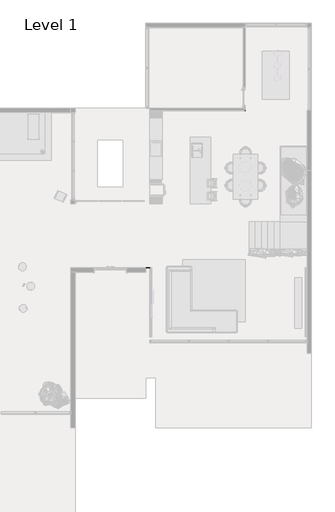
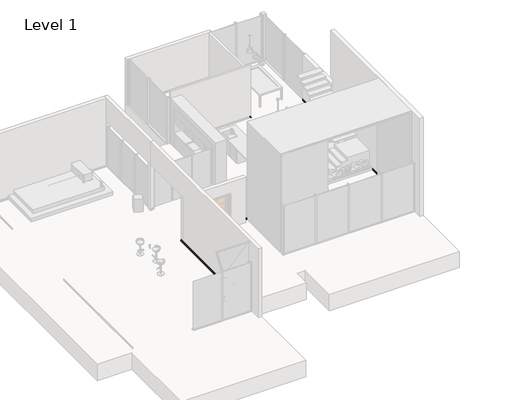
# One storey, part 5 of 6: 1 proxy.
"""IFC4 building model written with IfcOpenShell, lengths in millimetres."""

from ifc_helpers import new_model, si_unit, frame, origin, place, context, project, spatial, polyline, circle_curve, ellipse_curve, element, save
from ifc_brep_helpers import plane_surface, cylinder_surface, revolved_surface, advanced_brep

model = new_model("IFC4")

# Units and contexts
model_context = context("Model", 3, world=origin())
ifc_project = project(units=[si_unit("LENGTHUNIT", "METRE", prefix="MILLI")], contexts=[model_context])

# Site, building, storey
site = spatial("IfcSite", under=ifc_project)
building = spatial("IfcBuilding", under=site)
storey = spatial("IfcBuildingStorey", under=building, Name="Level 1", Elevation=1000.0)

# Proxy
placement = place(None, origin())
element("IfcBuildingElementProxy", 1, Name="Brick Soldier Course", ObjectType="Brick Soldier Course", at=placement, inside=storey, context=model_context, shape_type="AdvancedBrep", body=[
    advanced_brep(
    [(21543.1337784, 17066.9206658, 1100.0), (21544.1305058, 17066.9206658, 1100.0), (21548.1337784, 17066.9206658, 1095.9967275), (21548.1337784, 17066.9206658, 1091.4365579), (21546.6972204, 17066.9206658, 1090.0), (21545.6220518, 17066.9206658, 1090.0), (21545.6220518, 17066.9206658, 1050.0), (21549.1220518, 17066.9206658, 1050.0), (21550.6220518, 17066.9206658, 1048.5), (21550.6220518, 17066.9206658, 1026.451226), (21549.1708258, 17066.9206658, 1025.0), (21548.1337784, 17066.9206658, 1025.0), (21548.1337784, 17066.9206658, 1017.9313406), (21549.4012827, 17066.9206658, 1017.9313406), (21550.7660304, 17066.9206658, 1016.7363778), (21556.2616065, 17066.9206658, 1000.0), (21543.1337784, 17066.9206658, 1000.0), (21543.1337784, 14148.7206658, 1100.0), (21543.1337784, 14148.7206658, 1000.0), (21556.2616065, 14148.7206658, 1000.0), (21550.7660304, 14148.7206658, 1016.7363778), (21549.4012827, 14148.7206658, 1017.9313406), (21548.1337784, 14148.7206658, 1017.9313406), (21548.1337784, 14148.7206658, 1025.0), (21549.1708258, 14148.7206658, 1025.0), (21550.6220518, 14148.7206658, 1026.451226), (21550.6220518, 14148.7206658, 1048.5), (21549.1220518, 14148.7206658, 1050.0), (21545.6220518, 14148.7206658, 1050.0), (21545.6220518, 14148.7206658, 1090.0), (21546.6972204, 14148.7206658, 1090.0), (21548.1337784, 14148.7206658, 1091.4365579), (21548.1337784, 14148.7206658, 1095.9967275), (21544.1305058, 14148.7206658, 1100.0)],
    [
        (0, 1),
        (1, 2, circle_curve(frame((21544.1305058, 17066.9206658, 1095.9967275), z_axis=(0.0, 1.0, 0.0), x_axis=(1.0, 0.0, 0.0)), 4.0032725)),
        (2, 3),
        (3, 4, circle_curve(frame((21546.6972204, 17066.9206658, 1091.4365579), z_axis=(0.0, 1.0, 0.0), x_axis=(1.0, 0.0, 0.0)), 1.4365579)),
        (4, 5),
        (5, 6),
        (6, 7),
        (7, 8, circle_curve(frame((21549.1220518, 17066.9206658, 1048.5), z_axis=(0.0, 1.0, 0.0), x_axis=(1.0, 0.0, 0.0)), 1.5)),
        (8, 9),
        (9, 10, circle_curve(frame((21549.1708258, 17066.9206658, 1026.451226), z_axis=(0.0, 1.0, 0.0), x_axis=(1.0, 0.0, 0.0)), 1.451226)),
        (10, 11),
        (11, 12),
        (12, 13),
        (13, 14, circle_curve(frame((21549.4012827, 17066.9206658, 1016.554531), z_axis=(0.0, 1.0, 0.0), x_axis=(1.0, 0.0, 0.0)), 1.3768096)),
        (14, 15, circle_curve(frame((21598.2786954, 17066.9206658, 1023.0672348), z_axis=(0.0, -1.0, 0.0), x_axis=(1.0, 0.0, 0.0)), 47.932589)),
        (15, 16),
        (16, 0),
        (17, 18),
        (18, 19),
        (19, 20, circle_curve(frame((21598.2786954, 14148.7206658, 1023.0672348), z_axis=(0.0, 1.0, 0.0), x_axis=(1.0, 0.0, 0.0)), 47.932589)),
        (20, 21, circle_curve(frame((21549.4012827, 14148.7206658, 1016.554531), z_axis=(0.0, -1.0, 0.0), x_axis=(1.0, 0.0, 0.0)), 1.3768096)),
        (21, 22),
        (22, 23),
        (23, 24),
        (24, 25, circle_curve(frame((21549.1708258, 14148.7206658, 1026.451226), z_axis=(0.0, -1.0, 0.0), x_axis=(1.0, 0.0, 0.0)), 1.451226)),
        (25, 26),
        (26, 27, circle_curve(frame((21549.1220518, 14148.7206658, 1048.5), z_axis=(0.0, -1.0, 0.0), x_axis=(1.0, 0.0, 0.0)), 1.5)),
        (27, 28),
        (28, 29),
        (29, 30),
        (30, 31, circle_curve(frame((21546.6972204, 14148.7206658, 1091.4365579), z_axis=(0.0, -1.0, 0.0), x_axis=(1.0, 0.0, 0.0)), 1.4365579)),
        (31, 32),
        (32, 33, circle_curve(frame((21544.1305058, 14148.7206658, 1095.9967275), z_axis=(0.0, -1.0, 0.0), x_axis=(1.0, 0.0, 0.0)), 4.0032725)),
        (33, 17),
        (0, 17),
        (33, 1),
        (32, 2),
        (31, 3),
        (30, 4),
        (29, 5),
        (28, 6),
        (27, 7),
        (26, 8),
        (25, 9),
        (24, 10),
        (23, 11),
        (22, 12),
        (21, 13),
        (20, 14),
        (19, 15),
        (18, 16),
    ],
    [
        plane_surface(frame((21443.1288112, 17066.9206658, 1000.0), z_axis=(0.0, 1.0, 0.0), x_axis=(0.0, 0.0, -1.0))),
        plane_surface(frame((21443.1288112, 14148.7206658, 1000.0), z_axis=(0.0, -1.0, 0.0), x_axis=(0.0, 0.0, -1.0))),
        plane_surface(frame((21543.1337784, 17066.9206658, 1100.0), z_axis=(0.0, 0.0, 1.0), x_axis=(0.0, -1.0, 0.0))),
        cylinder_surface(frame((21544.1305058, 17066.9206658, 1095.9967275), z_axis=(0.0, 1.0, 0.0), x_axis=(1.0, 0.0, 0.0)), 4.0032725),
        plane_surface(frame((21548.1337784, 17066.9206658, 1095.9967275), z_axis=(1.0, 0.0, 0.0), x_axis=(0.0, -1.0, 0.0))),
        cylinder_surface(frame((21546.6972204, 17066.9206658, 1091.4365579), z_axis=(0.0, 1.0, 0.0), x_axis=(1.0, 0.0, 0.0)), 1.4365579),
        plane_surface(frame((21546.6972204, 17066.9206658, 1090.0), z_axis=(0.0, 0.0, -1.0), x_axis=(0.0, -1.0, 0.0))),
        plane_surface(frame((21545.6220518, 17066.9206658, 1090.0), z_axis=(1.0, 0.0, 0.0), x_axis=(0.0, -1.0, 0.0))),
        plane_surface(frame((21545.6220518, 17066.9206658, 1050.0), z_axis=(0.0, 0.0, 1.0), x_axis=(0.0, -1.0, 0.0))),
        cylinder_surface(frame((21549.1220518, 17066.9206658, 1048.5), z_axis=(0.0, 1.0, 0.0), x_axis=(1.0, 0.0, 0.0)), 1.5),
        plane_surface(frame((21550.6220518, 17066.9206658, 1048.5), z_axis=(1.0, 0.0, 0.0), x_axis=(0.0, -1.0, 0.0))),
        cylinder_surface(frame((21549.1708258, 17066.9206658, 1026.451226), z_axis=(0.0, 1.0, 0.0), x_axis=(1.0, 0.0, 0.0)), 1.451226),
        plane_surface(frame((21549.1708258, 17066.9206658, 1025.0), z_axis=(0.0, 0.0, -1.0), x_axis=(0.0, -1.0, 0.0))),
        plane_surface(frame((21548.1337784, 17066.9206658, 1025.0), z_axis=(1.0, 0.0, 0.0), x_axis=(0.0, -1.0, 0.0))),
        plane_surface(frame((21548.1337784, 17066.9206658, 1017.9313406), z_axis=(0.0, 0.0, 1.0), x_axis=(0.0, -1.0, 0.0))),
        cylinder_surface(frame((21549.4012827, 17066.9206658, 1016.554531), z_axis=(0.0, 1.0, 0.0), x_axis=(1.0, 0.0, 0.0)), 1.3768096),
        revolved_surface(polyline([(21646.2112844, 14148.7206658, 1023.0672348), (21646.2112844, 17066.9206658, 1023.0672348)]), (21598.2786954, 17066.9206658, 1023.0672348), (0.0, -1.0, 0.0)),
        plane_surface(frame((21556.2616065, 17066.9206658, 1000.0), z_axis=(0.0, 0.0, -1.0), x_axis=(0.0, -1.0, 0.0))),
        plane_surface(frame((21543.1337784, 17066.9206658, 1000.0), z_axis=(-1.0, 0.0, 0.0), x_axis=(0.0, -1.0, 0.0))),
    ],
    [
        (0, [[1, 2, 3, 4, 5, 6, 7, 8, 9, 10, 11, 12, 13, 14, 15, 16, 17]]),
        (1, [[18, 19, 20, 21, 22, 23, 24, 25, 26, 27, 28, 29, 30, 31, 32, 33, 34]]),
        (2, [[-1, 35, -34, 36]]),
        (3, [[-2, -36, -33, 37]]),
        (4, [[-3, -37, -32, 38]]),
        (5, [[-4, -38, -31, 39]]),
        (6, [[-5, -39, -30, 40]]),
        (7, [[-6, -40, -29, 41]]),
        (8, [[-7, -41, -28, 42]]),
        (9, [[-8, -42, -27, 43]]),
        (10, [[-9, -43, -26, 44]]),
        (11, [[-10, -44, -25, 45]]),
        (12, [[-11, -45, -24, 46]]),
        (13, [[-12, -46, -23, 47]]),
        (14, [[-13, -47, -22, 48]]),
        (15, [[-14, -48, -21, 49]]),
        (16, [[-15, -49, -20, 50]]),
        (17, [[-16, -50, -19, 51]]),
        (18, [[-17, -51, -18, -35]]),
    ],
),
    advanced_brep(
    [(21543.1337784, 13285.1206658, 1100.0), (21544.1305058, 13285.1206658, 1100.0), (21548.1337784, 13285.1206658, 1095.9967275), (21548.1337784, 13285.1206658, 1091.4365579), (21546.6972204, 13285.1206658, 1090.0), (21545.6220518, 13285.1206658, 1090.0), (21545.6220518, 13285.1206658, 1050.0), (21549.1220518, 13285.1206658, 1050.0), (21550.6220518, 13285.1206658, 1048.5), (21550.6220518, 13285.1206658, 1026.451226), (21549.1708258, 13285.1206658, 1025.0), (21548.1337784, 13285.1206658, 1025.0), (21548.1337784, 13285.1206658, 1017.9313406), (21549.4012827, 13285.1206658, 1017.9313406), (21550.7660304, 13285.1206658, 1016.7363778), (21556.2616065, 13285.1206658, 1000.0), (21543.1337784, 13285.1206658, 1000.0), (21543.1337784, 13066.9206658, 1100.0), (21543.1337784, 13066.9206658, 1000.0), (21556.2616065, 13053.7928378, 1000.0), (21550.7660304, 13059.2884138, 1016.7363778), (21549.4012827, 13060.6531616, 1017.9313406), (21548.1337784, 13061.9206658, 1017.9313406), (21548.1337784, 13061.9206658, 1025.0), (21549.1708258, 13060.8836184, 1025.0), (21550.6220518, 13059.4323924, 1026.451226), (21550.6220518, 13059.4323924, 1048.5), (21549.1220518, 13060.9323924, 1050.0), (21545.6220518, 13064.4323924, 1050.0), (21545.6220518, 13064.4323924, 1090.0), (21546.6972204, 13063.3572238, 1090.0), (21548.1337784, 13061.9206658, 1091.4365579), (21548.1337784, 13061.9206658, 1095.9967275), (21544.1305058, 13065.9239384, 1100.0)],
    [
        (0, 1),
        (1, 2, circle_curve(frame((21544.1305058, 13285.1206658, 1095.9967275), z_axis=(0.0, 1.0, 0.0), x_axis=(1.0, 0.0, 0.0)), 4.0032725)),
        (2, 3),
        (3, 4, circle_curve(frame((21546.6972204, 13285.1206658, 1091.4365579), z_axis=(0.0, 1.0, 0.0), x_axis=(1.0, 0.0, 0.0)), 1.4365579)),
        (4, 5),
        (5, 6),
        (6, 7),
        (7, 8, circle_curve(frame((21549.1220518, 13285.1206658, 1048.5), z_axis=(0.0, 1.0, 0.0), x_axis=(1.0, 0.0, 0.0)), 1.5)),
        (8, 9),
        (9, 10, circle_curve(frame((21549.1708258, 13285.1206658, 1026.451226), z_axis=(0.0, 1.0, 0.0), x_axis=(1.0, 0.0, 0.0)), 1.451226)),
        (10, 11),
        (11, 12),
        (12, 13),
        (13, 14, circle_curve(frame((21549.4012827, 13285.1206658, 1016.554531), z_axis=(0.0, 1.0, 0.0), x_axis=(1.0, 0.0, 0.0)), 1.3768096)),
        (14, 15, circle_curve(frame((21598.2786954, 13285.1206658, 1023.0672348), z_axis=(0.0, -1.0, 0.0), x_axis=(1.0, 0.0, 0.0)), 47.932589)),
        (15, 16),
        (16, 0),
        (17, 18),
        (18, 19),
        (19, 20, ellipse_curve(frame((21598.2786954, 13011.7757488, 1023.0672348), z_axis=(0.707106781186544, 0.7071067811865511, 0.0), x_axis=(0.7071067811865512, -0.7071067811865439, 0.0)), 67.7869174, 47.932589)),
        (20, 21, ellipse_curve(frame((21549.4012827, 13060.6531616, 1016.554531), z_axis=(-0.707106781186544, -0.7071067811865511, 0.0), x_axis=(-0.7071067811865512, 0.7071067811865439, 0.0)), 1.9471028, 1.3768096)),
        (21, 22),
        (22, 23),
        (23, 24),
        (24, 25, ellipse_curve(frame((21549.1708258, 13060.8836184, 1026.451226), z_axis=(-0.707106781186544, -0.7071067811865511, 0.0), x_axis=(-0.7071067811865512, 0.7071067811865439, 0.0)), 2.0523435, 1.451226)),
        (25, 26),
        (26, 27, ellipse_curve(frame((21549.1220518, 13060.9323924, 1048.5), z_axis=(-0.707106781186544, -0.7071067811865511, 0.0), x_axis=(-0.7071067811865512, 0.7071067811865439, 0.0)), 2.1213203, 1.5)),
        (27, 28),
        (28, 29),
        (29, 30),
        (30, 31, ellipse_curve(frame((21546.6972204, 13063.3572238, 1091.4365579), z_axis=(-0.707106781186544, -0.7071067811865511, 0.0), x_axis=(-0.7071067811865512, 0.7071067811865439, 0.0)), 2.0315997, 1.4365579)),
        (31, 32),
        (32, 33, ellipse_curve(frame((21544.1305058, 13065.9239384, 1095.9967275), z_axis=(-0.707106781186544, -0.7071067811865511, 0.0), x_axis=(-0.7071067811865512, 0.7071067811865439, 0.0)), 5.6614823, 4.0032725)),
        (33, 17),
        (0, 17),
        (33, 1),
        (32, 2),
        (31, 3),
        (30, 4),
        (29, 5),
        (28, 6),
        (27, 7),
        (26, 8),
        (25, 9),
        (24, 10),
        (23, 11),
        (22, 12),
        (21, 13),
        (20, 14),
        (19, 15),
        (18, 16),
    ],
    [
        plane_surface(frame((21443.1288112, 13285.1206658, 1000.0), z_axis=(0.0, 1.0, 0.0), x_axis=(0.0, 0.0, -1.0))),
        plane_surface(frame((21543.1337784, 13066.9206658, 1304.8), z_axis=(-0.707106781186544, -0.7071067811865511, 0.0), x_axis=(-0.7071067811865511, 0.707106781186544, 0.0))),
        plane_surface(frame((21543.1337784, 13285.1206658, 1100.0), z_axis=(0.0, 0.0, 1.0), x_axis=(0.0, -1.0, 0.0))),
        cylinder_surface(frame((21544.1305058, 13285.1206658, 1095.9967275), z_axis=(0.0, 1.0, 0.0), x_axis=(1.0, 0.0, 0.0)), 4.0032725),
        plane_surface(frame((21548.1337784, 13285.1206658, 1095.9967275), z_axis=(1.0, 0.0, 0.0), x_axis=(0.0, -1.0, 0.0))),
        cylinder_surface(frame((21546.6972204, 13285.1206658, 1091.4365579), z_axis=(0.0, 1.0, 0.0), x_axis=(1.0, 0.0, 0.0)), 1.4365579),
        plane_surface(frame((21546.6972204, 13285.1206658, 1090.0), z_axis=(0.0, 0.0, -1.0), x_axis=(0.0, -1.0, 0.0))),
        plane_surface(frame((21545.6220518, 13285.1206658, 1090.0), z_axis=(1.0, 0.0, 0.0), x_axis=(0.0, -1.0, 0.0))),
        plane_surface(frame((21545.6220518, 13285.1206658, 1050.0), z_axis=(0.0, 0.0, 1.0), x_axis=(0.0, -1.0, 0.0))),
        cylinder_surface(frame((21549.1220518, 13285.1206658, 1048.5), z_axis=(0.0, 1.0, 0.0), x_axis=(1.0, 0.0, 0.0)), 1.5),
        plane_surface(frame((21550.6220518, 13285.1206658, 1048.5), z_axis=(1.0, 0.0, 0.0), x_axis=(0.0, -1.0, 0.0))),
        cylinder_surface(frame((21549.1708258, 13285.1206658, 1026.451226), z_axis=(0.0, 1.0, 0.0), x_axis=(1.0, 0.0, 0.0)), 1.451226),
        plane_surface(frame((21549.1708258, 13285.1206658, 1025.0), z_axis=(0.0, 0.0, -1.0), x_axis=(0.0, -1.0, 0.0))),
        plane_surface(frame((21548.1337784, 13285.1206658, 1025.0), z_axis=(1.0, 0.0, 0.0), x_axis=(0.0, -1.0, 0.0))),
        plane_surface(frame((21548.1337784, 13285.1206658, 1017.9313406), z_axis=(0.0, 0.0, 1.0), x_axis=(0.0, -1.0, 0.0))),
        cylinder_surface(frame((21549.4012827, 13285.1206658, 1016.554531), z_axis=(0.0, 1.0, 0.0), x_axis=(1.0, 0.0, 0.0)), 1.3768096),
        revolved_surface(polyline([(21646.2112844, 12963.843159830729, 1023.0672348), (21646.2112844, 13285.1206658, 1023.0672348)]), (21598.2786954, 13285.1206658, 1023.0672348), (0.0, -1.0, 0.0)),
        plane_surface(frame((21556.2616065, 13285.1206658, 1000.0), z_axis=(0.0, 0.0, -1.0), x_axis=(0.0, -1.0, 0.0))),
        plane_surface(frame((21543.1337784, 13285.1206658, 1000.0), z_axis=(-1.0, 0.0, 0.0), x_axis=(0.0, -1.0, 0.0))),
    ],
    [
        (0, [[1, 2, 3, 4, 5, 6, 7, 8, 9, 10, 11, 12, 13, 14, 15, 16, 17]]),
        (1, [[18, 19, 20, 21, 22, 23, 24, 25, 26, 27, 28, 29, 30, 31, 32, 33, 34]]),
        (2, [[-1, 35, -34, 36]]),
        (3, [[-2, -36, -33, 37]]),
        (4, [[-3, -37, -32, 38]]),
        (5, [[-4, -38, -31, 39]]),
        (6, [[-5, -39, -30, 40]]),
        (7, [[-6, -40, -29, 41]]),
        (8, [[-7, -41, -28, 42]]),
        (9, [[-8, -42, -27, 43]]),
        (10, [[-9, -43, -26, 44]]),
        (11, [[-10, -44, -25, 45]]),
        (12, [[-11, -45, -24, 46]]),
        (13, [[-12, -46, -23, 47]]),
        (14, [[-13, -47, -22, 48]]),
        (15, [[-14, -48, -21, 49]]),
        (16, [[-15, -49, -20, 50]]),
        (17, [[-16, -50, -19, 51]]),
        (18, [[-17, -51, -18, -35]]),
    ],
),
    advanced_brep(
    [(24543.1337784, 10154.720421, 1100.0), (24542.1370509, 10154.720421, 1100.0), (24538.1337784, 10154.720421, 1095.9967275), (24538.1337784, 10154.720421, 1091.4365579), (24539.5703363, 10154.720421, 1090.0), (24540.6455049, 10154.720421, 1090.0), (24540.6455049, 10154.720421, 1050.0), (24537.1455049, 10154.720421, 1050.0), (24535.6455049, 10154.720421, 1048.5), (24535.6455049, 10154.720421, 1026.451226), (24537.0967309, 10154.720421, 1025.0), (24538.1337784, 10154.720421, 1025.0), (24538.1337784, 10154.720421, 1017.9313406), (24536.8662741, 10154.720421, 1017.9313406), (24535.5015263, 10154.720421, 1016.7363778), (24530.0059503, 10154.720421, 1000.0), (24543.1337784, 10154.720421, 1000.0), (24543.1337784, 13066.9206658, 1100.0), (24543.1337784, 13066.9206658, 1000.0), (24530.0059503, 13066.9206658, 1000.0), (24535.5015263, 13066.9206658, 1016.7363778), (24536.8662741, 13066.9206658, 1017.9313406), (24538.1337784, 13066.9206658, 1017.9313406), (24538.1337784, 13066.9206658, 1025.0), (24537.0967309, 13066.9206658, 1025.0), (24535.6455049, 13066.9206658, 1026.451226), (24535.6455049, 13066.9206658, 1048.5), (24537.1455049, 13066.9206658, 1050.0), (24540.6455049, 13066.9206658, 1050.0), (24540.6455049, 13066.9206658, 1090.0), (24539.5703363, 13066.9206658, 1090.0), (24538.1337784, 13066.9206658, 1091.4365579), (24538.1337784, 13066.9206658, 1095.9967275), (24542.1370509, 13066.9206658, 1100.0)],
    [
        (0, 1),
        (1, 2, circle_curve(frame((24542.1370509, 10154.720421, 1095.9967275), z_axis=(0.0, -1.0, 0.0), x_axis=(-1.0, 0.0, 0.0)), 4.0032725)),
        (2, 3),
        (3, 4, circle_curve(frame((24539.5703363, 10154.720421, 1091.4365579), z_axis=(0.0, -1.0, 0.0), x_axis=(-1.0, 0.0, 0.0)), 1.4365579)),
        (4, 5),
        (5, 6),
        (6, 7),
        (7, 8, circle_curve(frame((24537.1455049, 10154.720421, 1048.5), z_axis=(0.0, -1.0, 0.0), x_axis=(-1.0, 0.0, 0.0)), 1.5)),
        (8, 9),
        (9, 10, circle_curve(frame((24537.0967309, 10154.720421, 1026.451226), z_axis=(0.0, -1.0, 0.0), x_axis=(-1.0, 0.0, 0.0)), 1.451226)),
        (10, 11),
        (11, 12),
        (12, 13),
        (13, 14, circle_curve(frame((24536.8662741, 10154.720421, 1016.554531), z_axis=(0.0, -1.0, 0.0), x_axis=(-1.0, 0.0, 0.0)), 1.3768096)),
        (14, 15, circle_curve(frame((24487.9888613, 10154.720421, 1023.0672348), z_axis=(0.0, 1.0, 0.0), x_axis=(-1.0, 0.0, 0.0)), 47.932589)),
        (15, 16),
        (16, 0),
        (17, 18),
        (18, 19),
        (19, 20, circle_curve(frame((24487.9888613, 13066.9206658, 1023.0672348), z_axis=(0.0, -1.0, 0.0), x_axis=(-1.0, 0.0, 0.0)), 47.932589)),
        (20, 21, circle_curve(frame((24536.8662741, 13066.9206658, 1016.554531), z_axis=(0.0, 1.0, 0.0), x_axis=(-1.0, 0.0, 0.0)), 1.3768096)),
        (21, 22),
        (22, 23),
        (23, 24),
        (24, 25, circle_curve(frame((24537.0967309, 13066.9206658, 1026.451226), z_axis=(0.0, 1.0, 0.0), x_axis=(-1.0, 0.0, 0.0)), 1.451226)),
        (25, 26),
        (26, 27, circle_curve(frame((24537.1455049, 13066.9206658, 1048.5), z_axis=(0.0, 1.0, 0.0), x_axis=(-1.0, 0.0, 0.0)), 1.5)),
        (27, 28),
        (28, 29),
        (29, 30),
        (30, 31, circle_curve(frame((24539.5703363, 13066.9206658, 1091.4365579), z_axis=(0.0, 1.0, 0.0), x_axis=(-1.0, 0.0, 0.0)), 1.4365579)),
        (31, 32),
        (32, 33, circle_curve(frame((24542.1370509, 13066.9206658, 1095.9967275), z_axis=(0.0, 1.0, 0.0), x_axis=(-1.0, 0.0, 0.0)), 4.0032725)),
        (33, 17),
        (0, 17),
        (33, 1),
        (32, 2),
        (31, 3),
        (30, 4),
        (29, 5),
        (28, 6),
        (27, 7),
        (26, 8),
        (25, 9),
        (24, 10),
        (23, 11),
        (22, 12),
        (21, 13),
        (20, 14),
        (19, 15),
        (18, 16),
    ],
    [
        plane_surface(frame((24543.1337784, 10154.720421, 1304.8), z_axis=(0.0, -1.0, 0.0), x_axis=(1.0, 0.0, 0.0))),
        plane_surface(frame((24443.1288112, 13066.9206658, 1000.0), z_axis=(0.0, 1.0, 0.0), x_axis=(0.0, 0.0, 1.0))),
        plane_surface(frame((24543.1337784, 10154.720421, 1100.0), z_axis=(0.0, 0.0, 1.0), x_axis=(0.0, 1.0, 0.0))),
        cylinder_surface(frame((24542.1370509, 10154.720421, 1095.9967275), z_axis=(0.0, -1.0, 0.0), x_axis=(-1.0, 0.0, 0.0)), 4.0032725),
        plane_surface(frame((24538.1337784, 10154.720421, 1095.9967275), z_axis=(-1.0, 0.0, 0.0), x_axis=(0.0, 1.0, 0.0))),
        cylinder_surface(frame((24539.5703363, 10154.720421, 1091.4365579), z_axis=(0.0, -1.0, 0.0), x_axis=(-1.0, 0.0, 0.0)), 1.4365579),
        plane_surface(frame((24539.5703363, 10154.720421, 1090.0), z_axis=(0.0, 0.0, -1.0), x_axis=(0.0, 1.0, 0.0))),
        plane_surface(frame((24540.6455049, 10154.720421, 1090.0), z_axis=(-1.0, 0.0, 0.0), x_axis=(0.0, 1.0, 0.0))),
        plane_surface(frame((24540.6455049, 10154.720421, 1050.0), z_axis=(0.0, 0.0, 1.0), x_axis=(0.0, 1.0, 0.0))),
        cylinder_surface(frame((24537.1455049, 10154.720421, 1048.5), z_axis=(0.0, -1.0, 0.0), x_axis=(-1.0, 0.0, 0.0)), 1.5),
        plane_surface(frame((24535.6455049, 10154.720421, 1048.5), z_axis=(-1.0, 0.0, 0.0), x_axis=(0.0, 1.0, 0.0))),
        cylinder_surface(frame((24537.0967309, 10154.720421, 1026.451226), z_axis=(0.0, -1.0, 0.0), x_axis=(-1.0, 0.0, 0.0)), 1.451226),
        plane_surface(frame((24537.0967309, 10154.720421, 1025.0), z_axis=(0.0, 0.0, -1.0), x_axis=(0.0, 1.0, 0.0))),
        plane_surface(frame((24538.1337784, 10154.720421, 1025.0), z_axis=(-1.0, 0.0, 0.0), x_axis=(0.0, 1.0, 0.0))),
        plane_surface(frame((24538.1337784, 10154.720421, 1017.9313406), z_axis=(0.0, 0.0, 1.0), x_axis=(0.0, 1.0, 0.0))),
        cylinder_surface(frame((24536.8662741, 10154.720421, 1016.554531), z_axis=(0.0, -1.0, 0.0), x_axis=(-1.0, 0.0, 0.0)), 1.3768096),
        revolved_surface(polyline([(24440.0562723, 13066.9206658, 1023.0672348), (24440.0562723, 10154.720421, 1023.0672348)]), (24487.9888613, 10154.720421, 1023.0672348), (0.0, 1.0, 0.0)),
        plane_surface(frame((24530.0059503, 10154.720421, 1000.0), z_axis=(0.0, 0.0, -1.0), x_axis=(0.0, 1.0, 0.0))),
        plane_surface(frame((24543.1337784, 10154.720421, 1000.0), z_axis=(1.0, 0.0, 0.0), x_axis=(0.0, 1.0, 0.0))),
    ],
    [
        (0, [[1, 2, 3, 4, 5, 6, 7, 8, 9, 10, 11, 12, 13, 14, 15, 16, 17]]),
        (1, [[18, 19, 20, 21, 22, 23, 24, 25, 26, 27, 28, 29, 30, 31, 32, 33, 34]]),
        (2, [[-1, 35, -34, 36]]),
        (3, [[-2, -36, -33, 37]]),
        (4, [[-3, -37, -32, 38]]),
        (5, [[-4, -38, -31, 39]]),
        (6, [[-5, -39, -30, 40]]),
        (7, [[-6, -40, -29, 41]]),
        (8, [[-7, -41, -28, 42]]),
        (9, [[-8, -42, -27, 43]]),
        (10, [[-9, -43, -26, 44]]),
        (11, [[-10, -44, -25, 45]]),
        (12, [[-11, -45, -24, 46]]),
        (13, [[-12, -46, -23, 47]]),
        (14, [[-13, -47, -22, 48]]),
        (15, [[-14, -48, -21, 49]]),
        (16, [[-15, -49, -20, 50]]),
        (17, [[-16, -50, -19, 51]]),
        (18, [[-17, -51, -18, -35]]),
    ],
),
    advanced_brep(
    [(24543.1337784, 1991.3321125, 1100.0), (24542.1370509, 1991.3321125, 1100.0), (24538.1337784, 1991.3321125, 1095.9967275), (24538.1337784, 1991.3321125, 1091.4365579), (24539.5703363, 1991.3321125, 1090.0), (24540.6455049, 1991.3321125, 1090.0), (24540.6455049, 1991.3321125, 1050.0), (24537.1455049, 1991.3321125, 1050.0), (24535.6455049, 1991.3321125, 1048.5), (24535.6455049, 1991.3321125, 1026.451226), (24537.0967309, 1991.3321125, 1025.0), (24538.1337784, 1991.3321125, 1025.0), (24538.1337784, 1991.3321125, 1017.9313406), (24536.8662741, 1991.3321125, 1017.9313406), (24535.5015263, 1991.3321125, 1016.7363778), (24530.0059503, 1991.3321125, 1000.0), (24543.1337784, 1991.3321125, 1000.0), (24543.1337784, 10154.720421, 1100.0), (24543.1337784, 10154.720421, 1000.0), (24530.0059503, 10154.720421, 1000.0), (24535.5015263, 10154.720421, 1016.7363778), (24536.8662741, 10154.720421, 1017.9313406), (24538.1337784, 10154.720421, 1017.9313406), (24538.1337784, 10154.720421, 1025.0), (24537.0967309, 10154.720421, 1025.0), (24535.6455049, 10154.720421, 1026.451226), (24535.6455049, 10154.720421, 1048.5), (24537.1455049, 10154.720421, 1050.0), (24540.6455049, 10154.720421, 1050.0), (24540.6455049, 10154.720421, 1090.0), (24539.5703363, 10154.720421, 1090.0), (24538.1337784, 10154.720421, 1091.4365579), (24538.1337784, 10154.720421, 1095.9967275), (24542.1370509, 10154.720421, 1100.0)],
    [
        (0, 1),
        (1, 2, circle_curve(frame((24542.1370509, 1991.3321125, 1095.9967275), z_axis=(0.0, -1.0, 0.0), x_axis=(-1.0, 0.0, 0.0)), 4.0032725)),
        (2, 3),
        (3, 4, circle_curve(frame((24539.5703363, 1991.3321125, 1091.4365579), z_axis=(0.0, -1.0, 0.0), x_axis=(-1.0, 0.0, 0.0)), 1.4365579)),
        (4, 5),
        (5, 6),
        (6, 7),
        (7, 8, circle_curve(frame((24537.1455049, 1991.3321125, 1048.5), z_axis=(0.0, -1.0, 0.0), x_axis=(-1.0, 0.0, 0.0)), 1.5)),
        (8, 9),
        (9, 10, circle_curve(frame((24537.0967309, 1991.3321125, 1026.451226), z_axis=(0.0, -1.0, 0.0), x_axis=(-1.0, 0.0, 0.0)), 1.451226)),
        (10, 11),
        (11, 12),
        (12, 13),
        (13, 14, circle_curve(frame((24536.8662741, 1991.3321125, 1016.554531), z_axis=(0.0, -1.0, 0.0), x_axis=(-1.0, 0.0, 0.0)), 1.3768096)),
        (14, 15, circle_curve(frame((24487.9888613, 1991.3321125, 1023.0672348), z_axis=(0.0, 1.0, 0.0), x_axis=(-1.0, 0.0, 0.0)), 47.932589)),
        (15, 16),
        (16, 0),
        (17, 18),
        (18, 19),
        (19, 20, circle_curve(frame((24487.9888613, 10154.720421, 1023.0672348), z_axis=(0.0, -1.0, 0.0), x_axis=(-1.0, 0.0, 0.0)), 47.932589)),
        (20, 21, circle_curve(frame((24536.8662741, 10154.720421, 1016.554531), z_axis=(0.0, 1.0, 0.0), x_axis=(-1.0, 0.0, 0.0)), 1.3768096)),
        (21, 22),
        (22, 23),
        (23, 24),
        (24, 25, circle_curve(frame((24537.0967309, 10154.720421, 1026.451226), z_axis=(0.0, 1.0, 0.0), x_axis=(-1.0, 0.0, 0.0)), 1.451226)),
        (25, 26),
        (26, 27, circle_curve(frame((24537.1455049, 10154.720421, 1048.5), z_axis=(0.0, 1.0, 0.0), x_axis=(-1.0, 0.0, 0.0)), 1.5)),
        (27, 28),
        (28, 29),
        (29, 30),
        (30, 31, circle_curve(frame((24539.5703363, 10154.720421, 1091.4365579), z_axis=(0.0, 1.0, 0.0), x_axis=(-1.0, 0.0, 0.0)), 1.4365579)),
        (31, 32),
        (32, 33, circle_curve(frame((24542.1370509, 10154.720421, 1095.9967275), z_axis=(0.0, 1.0, 0.0), x_axis=(-1.0, 0.0, 0.0)), 4.0032725)),
        (33, 17),
        (0, 17),
        (33, 1),
        (32, 2),
        (31, 3),
        (30, 4),
        (29, 5),
        (28, 6),
        (27, 7),
        (26, 8),
        (25, 9),
        (24, 10),
        (23, 11),
        (22, 12),
        (21, 13),
        (20, 14),
        (19, 15),
        (18, 16),
    ],
    [
        plane_surface(frame((24443.1288112, 1991.3321125, 1000.0), z_axis=(0.0, -1.0, 0.0), x_axis=(0.0, 0.0, 1.0))),
        plane_surface(frame((24543.1337784, 10154.720421, 1304.8), z_axis=(0.0, 1.0, 0.0), x_axis=(1.0, 0.0, 0.0))),
        plane_surface(frame((24543.1337784, 1991.3321125, 1100.0), z_axis=(0.0, 0.0, 1.0), x_axis=(0.0, 1.0, 0.0))),
        cylinder_surface(frame((24542.1370509, 1991.3321125, 1095.9967275), z_axis=(0.0, -1.0, 0.0), x_axis=(-1.0, 0.0, 0.0)), 4.0032725),
        plane_surface(frame((24538.1337784, 1991.3321125, 1095.9967275), z_axis=(-1.0, 0.0, 0.0), x_axis=(0.0, 1.0, 0.0))),
        cylinder_surface(frame((24539.5703363, 1991.3321125, 1091.4365579), z_axis=(0.0, -1.0, 0.0), x_axis=(-1.0, 0.0, 0.0)), 1.4365579),
        plane_surface(frame((24539.5703363, 1991.3321125, 1090.0), z_axis=(0.0, 0.0, -1.0), x_axis=(0.0, 1.0, 0.0))),
        plane_surface(frame((24540.6455049, 1991.3321125, 1090.0), z_axis=(-1.0, 0.0, 0.0), x_axis=(0.0, 1.0, 0.0))),
        plane_surface(frame((24540.6455049, 1991.3321125, 1050.0), z_axis=(0.0, 0.0, 1.0), x_axis=(0.0, 1.0, 0.0))),
        cylinder_surface(frame((24537.1455049, 1991.3321125, 1048.5), z_axis=(0.0, -1.0, 0.0), x_axis=(-1.0, 0.0, 0.0)), 1.5),
        plane_surface(frame((24535.6455049, 1991.3321125, 1048.5), z_axis=(-1.0, 0.0, 0.0), x_axis=(0.0, 1.0, 0.0))),
        cylinder_surface(frame((24537.0967309, 1991.3321125, 1026.451226), z_axis=(0.0, -1.0, 0.0), x_axis=(-1.0, 0.0, 0.0)), 1.451226),
        plane_surface(frame((24537.0967309, 1991.3321125, 1025.0), z_axis=(0.0, 0.0, -1.0), x_axis=(0.0, 1.0, 0.0))),
        plane_surface(frame((24538.1337784, 1991.3321125, 1025.0), z_axis=(-1.0, 0.0, 0.0), x_axis=(0.0, 1.0, 0.0))),
        plane_surface(frame((24538.1337784, 1991.3321125, 1017.9313406), z_axis=(0.0, 0.0, 1.0), x_axis=(0.0, 1.0, 0.0))),
        cylinder_surface(frame((24536.8662741, 1991.3321125, 1016.554531), z_axis=(0.0, -1.0, 0.0), x_axis=(-1.0, 0.0, 0.0)), 1.3768096),
        revolved_surface(polyline([(24440.0562723, 10154.720421, 1023.0672348), (24440.0562723, 1991.3321125, 1023.0672348)]), (24487.9888613, 1991.3321125, 1023.0672348), (0.0, 1.0, 0.0)),
        plane_surface(frame((24530.0059503, 1991.3321125, 1000.0), z_axis=(0.0, 0.0, -1.0), x_axis=(0.0, 1.0, 0.0))),
        plane_surface(frame((24543.1337784, 1991.3321125, 1000.0), z_axis=(1.0, 0.0, 0.0), x_axis=(0.0, 1.0, 0.0))),
    ],
    [
        (0, [[1, 2, 3, 4, 5, 6, 7, 8, 9, 10, 11, 12, 13, 14, 15, 16, 17]]),
        (1, [[18, 19, 20, 21, 22, 23, 24, 25, 26, 27, 28, 29, 30, 31, 32, 33, 34]]),
        (2, [[-1, 35, -34, 36]]),
        (3, [[-2, -36, -33, 37]]),
        (4, [[-3, -37, -32, 38]]),
        (5, [[-4, -38, -31, 39]]),
        (6, [[-5, -39, -30, 40]]),
        (7, [[-6, -40, -29, 41]]),
        (8, [[-7, -41, -28, 42]]),
        (9, [[-8, -42, -27, 43]]),
        (10, [[-9, -43, -26, 44]]),
        (11, [[-10, -44, -25, 45]]),
        (12, [[-11, -45, -24, 46]]),
        (13, [[-12, -46, -23, 47]]),
        (14, [[-13, -47, -22, 48]]),
        (15, [[-14, -48, -21, 49]]),
        (16, [[-15, -49, -20, 50]]),
        (17, [[-16, -50, -19, 51]]),
        (18, [[-17, -51, -18, -35]]),
    ],
),
    advanced_brep(
    [(13143.1337784, 5466.9206658, 1100.0), (13142.1370509, 5467.9173933, 1100.0), (13138.1337784, 5471.9206658, 1095.9967275), (13138.1337784, 5471.9206658, 1091.4365579), (13139.5703363, 5470.4841079, 1090.0), (13140.6455049, 5469.4089393, 1090.0), (13140.6455049, 5469.4089393, 1050.0), (13137.1455049, 5472.9089393, 1050.0), (13135.6455049, 5474.4089393, 1048.5), (13135.6455049, 5474.4089393, 1026.451226), (13137.0967309, 5472.9577133, 1025.0), (13138.1337784, 5471.9206658, 1025.0), (13138.1337784, 5471.9206658, 1017.9313406), (13136.8662741, 5473.1881701, 1017.9313406), (13135.5015263, 5474.5529179, 1016.7363778), (13130.0059503, 5480.0484939, 1000.0), (13143.1337784, 5466.9206658, 1000.0), (14255.7337784, 5466.9206658, 1100.0), (14255.7337784, 5466.9206658, 1000.0), (14255.7337784, 5480.0484939, 1000.0), (14255.7337784, 5474.5529179, 1016.7363778), (14255.7337784, 5473.1881701, 1017.9313406), (14255.7337784, 5471.9206658, 1017.9313406), (14255.7337784, 5471.9206658, 1025.0), (14255.7337784, 5472.9577133, 1025.0), (14255.7337784, 5474.4089393, 1026.451226), (14255.7337784, 5474.4089393, 1048.5), (14255.7337784, 5472.9089393, 1050.0), (14255.7337784, 5469.4089393, 1050.0), (14255.7337784, 5469.4089393, 1090.0), (14255.7337784, 5470.4841079, 1090.0), (14255.7337784, 5471.9206658, 1091.4365579), (14255.7337784, 5471.9206658, 1095.9967275), (14255.7337784, 5467.9173933, 1100.0)],
    [
        (0, 1),
        (1, 2, ellipse_curve(frame((13142.1370509, 5467.9173933, 1095.9967275), z_axis=(-0.7071067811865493, -0.7071067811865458, 0.0), x_axis=(-0.7071067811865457, 0.7071067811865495, 0.0)), 5.6614823, 4.0032725)),
        (2, 3),
        (3, 4, ellipse_curve(frame((13139.5703363, 5470.4841079, 1091.4365579), z_axis=(-0.7071067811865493, -0.7071067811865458, 0.0), x_axis=(-0.7071067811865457, 0.7071067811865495, 0.0)), 2.0315997, 1.4365579)),
        (4, 5),
        (5, 6),
        (6, 7),
        (7, 8, ellipse_curve(frame((13137.1455049, 5472.9089393, 1048.5), z_axis=(-0.7071067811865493, -0.7071067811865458, 0.0), x_axis=(-0.7071067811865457, 0.7071067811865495, 0.0)), 2.1213203, 1.5)),
        (8, 9),
        (9, 10, ellipse_curve(frame((13137.0967309, 5472.9577133, 1026.451226), z_axis=(-0.7071067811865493, -0.7071067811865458, 0.0), x_axis=(-0.7071067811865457, 0.7071067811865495, 0.0)), 2.0523435, 1.451226)),
        (10, 11),
        (11, 12),
        (12, 13),
        (13, 14, ellipse_curve(frame((13136.8662741, 5473.1881701, 1016.554531), z_axis=(-0.7071067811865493, -0.7071067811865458, 0.0), x_axis=(-0.7071067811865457, 0.7071067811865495, 0.0)), 1.9471028, 1.3768096)),
        (14, 15, ellipse_curve(frame((13087.9888613, 5522.0655829, 1023.0672348), z_axis=(0.7071067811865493, 0.7071067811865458, 0.0), x_axis=(0.7071067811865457, -0.7071067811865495, 0.0)), 67.7869174, 47.932589)),
        (15, 16),
        (16, 0),
        (17, 18),
        (18, 19),
        (19, 20, circle_curve(frame((14255.7337784, 5522.0655829, 1023.0672348), z_axis=(-1.0, 0.0, 0.0), x_axis=(0.0, 1.0, 0.0)), 47.932589)),
        (20, 21, circle_curve(frame((14255.7337784, 5473.1881701, 1016.554531), z_axis=(1.0, 0.0, 0.0), x_axis=(0.0, 1.0, 0.0)), 1.3768096)),
        (21, 22),
        (22, 23),
        (23, 24),
        (24, 25, circle_curve(frame((14255.7337784, 5472.9577133, 1026.451226), z_axis=(1.0, 0.0, 0.0), x_axis=(0.0, 1.0, 0.0)), 1.451226)),
        (25, 26),
        (26, 27, circle_curve(frame((14255.7337784, 5472.9089393, 1048.5), z_axis=(1.0, 0.0, 0.0), x_axis=(0.0, 1.0, 0.0)), 1.5)),
        (27, 28),
        (28, 29),
        (29, 30),
        (30, 31, circle_curve(frame((14255.7337784, 5470.4841079, 1091.4365579), z_axis=(1.0, 0.0, 0.0), x_axis=(0.0, 1.0, 0.0)), 1.4365579)),
        (31, 32),
        (32, 33, circle_curve(frame((14255.7337784, 5467.9173933, 1095.9967275), z_axis=(1.0, 0.0, 0.0), x_axis=(0.0, 1.0, 0.0)), 4.0032725)),
        (33, 17),
        (0, 17),
        (33, 1),
        (32, 2),
        (31, 3),
        (30, 4),
        (29, 5),
        (28, 6),
        (27, 7),
        (26, 8),
        (25, 9),
        (24, 10),
        (23, 11),
        (22, 12),
        (21, 13),
        (20, 14),
        (19, 15),
        (18, 16),
    ],
    [
        plane_surface(frame((13143.1337784, 5466.9206658, 1304.8), z_axis=(-0.7071067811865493, -0.7071067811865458, 0.0), x_axis=(0.7071067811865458, -0.7071067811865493, 0.0))),
        plane_surface(frame((14255.7337784, 5466.9206658, 899.9950328), z_axis=(1.0, 0.0, 0.0), x_axis=(0.0, 1.0, 0.0))),
        plane_surface(frame((13143.1337784, 5466.9206658, 1100.0), z_axis=(0.0, 0.0, 1.0), x_axis=(1.0, 0.0, 0.0))),
        cylinder_surface(frame((13143.1337784, 5467.9173933, 1095.9967275), z_axis=(-1.0, 0.0, 0.0), x_axis=(0.0, 1.0, 0.0)), 4.0032725),
        plane_surface(frame((13138.1337784, 5471.9206658, 1095.9967275), z_axis=(0.0, 1.0, 0.0), x_axis=(1.0, 0.0, 0.0))),
        cylinder_surface(frame((13143.1337784, 5470.4841079, 1091.4365579), z_axis=(-1.0, 0.0, 0.0), x_axis=(0.0, 1.0, 0.0)), 1.4365579),
        plane_surface(frame((13139.5703363, 5470.4841079, 1090.0), z_axis=(0.0, 0.0, -1.0), x_axis=(1.0, 0.0, 0.0))),
        plane_surface(frame((13140.6455049, 5469.4089393, 1090.0), z_axis=(0.0, 1.0, 0.0), x_axis=(1.0, 0.0, 0.0))),
        plane_surface(frame((13140.6455049, 5469.4089393, 1050.0), z_axis=(0.0, 0.0, 1.0), x_axis=(1.0, 0.0, 0.0))),
        cylinder_surface(frame((13143.1337784, 5472.9089393, 1048.5), z_axis=(-1.0, 0.0, 0.0), x_axis=(0.0, 1.0, 0.0)), 1.5),
        plane_surface(frame((13135.6455049, 5474.4089393, 1048.5), z_axis=(0.0, 1.0, 0.0), x_axis=(1.0, 0.0, 0.0))),
        cylinder_surface(frame((13143.1337784, 5472.9577133, 1026.451226), z_axis=(-1.0, 0.0, 0.0), x_axis=(0.0, 1.0, 0.0)), 1.451226),
        plane_surface(frame((13137.0967309, 5472.9577133, 1025.0), z_axis=(0.0, 0.0, -1.0), x_axis=(1.0, 0.0, 0.0))),
        plane_surface(frame((13138.1337784, 5471.9206658, 1025.0), z_axis=(0.0, 1.0, 0.0), x_axis=(1.0, 0.0, 0.0))),
        plane_surface(frame((13138.1337784, 5471.9206658, 1017.9313406), z_axis=(0.0, 0.0, 1.0), x_axis=(1.0, 0.0, 0.0))),
        cylinder_surface(frame((13143.1337784, 5473.1881701, 1016.554531), z_axis=(-1.0, 0.0, 0.0), x_axis=(0.0, 1.0, 0.0)), 1.3768096),
        revolved_surface(polyline([(14255.7337784, 5569.9981719, 1023.0672348), (13040.056272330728, 5569.9981719, 1023.0672348)]), (13143.1337784, 5522.0655829, 1023.0672348), (1.0, 0.0, 0.0)),
        plane_surface(frame((13130.0059503, 5480.0484939, 1000.0), z_axis=(0.0, 0.0, -1.0), x_axis=(1.0, 0.0, 0.0))),
        plane_surface(frame((13143.1337784, 5466.9206658, 1000.0), z_axis=(0.0, -1.0, 0.0), x_axis=(1.0, 0.0, 0.0))),
    ],
    [
        (0, [[1, 2, 3, 4, 5, 6, 7, 8, 9, 10, 11, 12, 13, 14, 15, 16, 17]]),
        (1, [[18, 19, 20, 21, 22, 23, 24, 25, 26, 27, 28, 29, 30, 31, 32, 33, 34]]),
        (2, [[-1, 35, -34, 36]]),
        (3, [[-2, -36, -33, 37]]),
        (4, [[-3, -37, -32, 38]]),
        (5, [[-4, -38, -31, 39]]),
        (6, [[-5, -39, -30, 40]]),
        (7, [[-6, -40, -29, 41]]),
        (8, [[-7, -41, -28, 42]]),
        (9, [[-8, -42, -27, 43]]),
        (10, [[-9, -43, -26, 44]]),
        (11, [[-10, -44, -25, 45]]),
        (12, [[-11, -45, -24, 46]]),
        (13, [[-12, -46, -23, 47]]),
        (14, [[-13, -47, -22, 48]]),
        (15, [[-14, -48, -21, 49]]),
        (16, [[-15, -49, -20, 50]]),
        (17, [[-16, -50, -19, 51]]),
        (18, [[-17, -51, -18, -35]]),
    ],
),
    advanced_brep(
    [(15830.5337784, 5466.9206658, 1100.0), (15830.5337784, 5467.9173933, 1100.0), (15830.5337784, 5471.9206658, 1095.9967275), (15830.5337784, 5471.9206658, 1091.4365579), (15830.5337784, 5470.4841079, 1090.0), (15830.5337784, 5469.4089393, 1090.0), (15830.5337784, 5469.4089393, 1050.0), (15830.5337784, 5472.9089393, 1050.0), (15830.5337784, 5474.4089393, 1048.5), (15830.5337784, 5474.4089393, 1026.451226), (15830.5337784, 5472.9577133, 1025.0), (15830.5337784, 5471.9206658, 1025.0), (15830.5337784, 5471.9206658, 1017.9313406), (15830.5337784, 5473.1881701, 1017.9313406), (15830.5337784, 5474.5529179, 1016.7363778), (15830.5337784, 5480.0484939, 1000.0), (15830.5337784, 5466.9206658, 1000.0), (16943.1337784, 5466.9206658, 1100.0), (16943.1337784, 5466.9206658, 1000.0), (16943.1337784, 5480.0484939, 1000.0), (16943.1337784, 5474.5529179, 1016.7363778), (16943.1337784, 5473.1881701, 1017.9313406), (16943.1337784, 5471.9206658, 1017.9313406), (16943.1337784, 5471.9206658, 1025.0), (16943.1337784, 5472.9577133, 1025.0), (16943.1337784, 5474.4089393, 1026.451226), (16943.1337784, 5474.4089393, 1048.5), (16943.1337784, 5472.9089393, 1050.0), (16943.1337784, 5469.4089393, 1050.0), (16943.1337784, 5469.4089393, 1090.0), (16943.1337784, 5470.4841079, 1090.0), (16943.1337784, 5471.9206658, 1091.4365579), (16943.1337784, 5471.9206658, 1095.9967275), (16943.1337784, 5467.9173933, 1100.0)],
    [
        (0, 1),
        (1, 2, circle_curve(frame((15830.5337784, 5467.9173933, 1095.9967275), z_axis=(-1.0, 0.0, 0.0), x_axis=(0.0, 1.0, 0.0)), 4.0032725)),
        (2, 3),
        (3, 4, circle_curve(frame((15830.5337784, 5470.4841079, 1091.4365579), z_axis=(-1.0, 0.0, 0.0), x_axis=(0.0, 1.0, 0.0)), 1.4365579)),
        (4, 5),
        (5, 6),
        (6, 7),
        (7, 8, circle_curve(frame((15830.5337784, 5472.9089393, 1048.5), z_axis=(-1.0, 0.0, 0.0), x_axis=(0.0, 1.0, 0.0)), 1.5)),
        (8, 9),
        (9, 10, circle_curve(frame((15830.5337784, 5472.9577133, 1026.451226), z_axis=(-1.0, 0.0, 0.0), x_axis=(0.0, 1.0, 0.0)), 1.451226)),
        (10, 11),
        (11, 12),
        (12, 13),
        (13, 14, circle_curve(frame((15830.5337784, 5473.1881701, 1016.554531), z_axis=(-1.0, 0.0, 0.0), x_axis=(0.0, 1.0, 0.0)), 1.3768096)),
        (14, 15, circle_curve(frame((15830.5337784, 5522.0655829, 1023.0672348), z_axis=(1.0, 0.0, 0.0), x_axis=(0.0, 1.0, 0.0)), 47.932589)),
        (15, 16),
        (16, 0),
        (17, 18),
        (18, 19),
        (19, 20, circle_curve(frame((16943.1337784, 5522.0655829, 1023.0672348), z_axis=(-1.0, 0.0, 0.0), x_axis=(0.0, 1.0, 0.0)), 47.932589)),
        (20, 21, circle_curve(frame((16943.1337784, 5473.1881701, 1016.554531), z_axis=(1.0, 0.0, 0.0), x_axis=(0.0, 1.0, 0.0)), 1.3768096)),
        (21, 22),
        (22, 23),
        (23, 24),
        (24, 25, circle_curve(frame((16943.1337784, 5472.9577133, 1026.451226), z_axis=(1.0, 0.0, 0.0), x_axis=(0.0, 1.0, 0.0)), 1.451226)),
        (25, 26),
        (26, 27, circle_curve(frame((16943.1337784, 5472.9089393, 1048.5), z_axis=(1.0, 0.0, 0.0), x_axis=(0.0, 1.0, 0.0)), 1.5)),
        (27, 28),
        (28, 29),
        (29, 30),
        (30, 31, circle_curve(frame((16943.1337784, 5470.4841079, 1091.4365579), z_axis=(1.0, 0.0, 0.0), x_axis=(0.0, 1.0, 0.0)), 1.4365579)),
        (31, 32),
        (32, 33, circle_curve(frame((16943.1337784, 5467.9173933, 1095.9967275), z_axis=(1.0, 0.0, 0.0), x_axis=(0.0, 1.0, 0.0)), 4.0032725)),
        (33, 17),
        (0, 17),
        (33, 1),
        (32, 2),
        (31, 3),
        (30, 4),
        (29, 5),
        (28, 6),
        (27, 7),
        (26, 8),
        (25, 9),
        (24, 10),
        (23, 11),
        (22, 12),
        (21, 13),
        (20, 14),
        (19, 15),
        (18, 16),
    ],
    [
        plane_surface(frame((15830.5337784, 5466.9206658, 899.9950328), z_axis=(-1.0, 0.0, 0.0), x_axis=(0.0, 1.0, 0.0))),
        plane_surface(frame((16943.1337784, 5466.9206658, 899.9950328), z_axis=(1.0, 0.0, 0.0), x_axis=(0.0, 1.0, 0.0))),
        plane_surface(frame((15830.5337784, 5466.9206658, 1100.0), z_axis=(0.0, 0.0, 1.0), x_axis=(1.0, 0.0, 0.0))),
        cylinder_surface(frame((15830.5337784, 5467.9173933, 1095.9967275), z_axis=(-1.0, 0.0, 0.0), x_axis=(0.0, 1.0, 0.0)), 4.0032725),
        plane_surface(frame((15830.5337784, 5471.9206658, 1095.9967275), z_axis=(0.0, 1.0, 0.0), x_axis=(1.0, 0.0, 0.0))),
        cylinder_surface(frame((15830.5337784, 5470.4841079, 1091.4365579), z_axis=(-1.0, 0.0, 0.0), x_axis=(0.0, 1.0, 0.0)), 1.4365579),
        plane_surface(frame((15830.5337784, 5470.4841079, 1090.0), z_axis=(0.0, 0.0, -1.0), x_axis=(1.0, 0.0, 0.0))),
        plane_surface(frame((15830.5337784, 5469.4089393, 1090.0), z_axis=(0.0, 1.0, 0.0), x_axis=(1.0, 0.0, 0.0))),
        plane_surface(frame((15830.5337784, 5469.4089393, 1050.0), z_axis=(0.0, 0.0, 1.0), x_axis=(1.0, 0.0, 0.0))),
        cylinder_surface(frame((15830.5337784, 5472.9089393, 1048.5), z_axis=(-1.0, 0.0, 0.0), x_axis=(0.0, 1.0, 0.0)), 1.5),
        plane_surface(frame((15830.5337784, 5474.4089393, 1048.5), z_axis=(0.0, 1.0, 0.0), x_axis=(1.0, 0.0, 0.0))),
        cylinder_surface(frame((15830.5337784, 5472.9577133, 1026.451226), z_axis=(-1.0, 0.0, 0.0), x_axis=(0.0, 1.0, 0.0)), 1.451226),
        plane_surface(frame((15830.5337784, 5472.9577133, 1025.0), z_axis=(0.0, 0.0, -1.0), x_axis=(1.0, 0.0, 0.0))),
        plane_surface(frame((15830.5337784, 5471.9206658, 1025.0), z_axis=(0.0, 1.0, 0.0), x_axis=(1.0, 0.0, 0.0))),
        plane_surface(frame((15830.5337784, 5471.9206658, 1017.9313406), z_axis=(0.0, 0.0, 1.0), x_axis=(1.0, 0.0, 0.0))),
        cylinder_surface(frame((15830.5337784, 5473.1881701, 1016.554531), z_axis=(-1.0, 0.0, 0.0), x_axis=(0.0, 1.0, 0.0)), 1.3768096),
        revolved_surface(polyline([(16943.1337784, 5569.9981719, 1023.0672348), (15830.5337784, 5569.9981719, 1023.0672348)]), (15830.5337784, 5522.0655829, 1023.0672348), (1.0, 0.0, 0.0)),
        plane_surface(frame((15830.5337784, 5480.0484939, 1000.0), z_axis=(0.0, 0.0, -1.0), x_axis=(1.0, 0.0, 0.0))),
        plane_surface(frame((15830.5337784, 5466.9206658, 1000.0), z_axis=(0.0, -1.0, 0.0), x_axis=(1.0, 0.0, 0.0))),
    ],
    [
        (0, [[1, 2, 3, 4, 5, 6, 7, 8, 9, 10, 11, 12, 13, 14, 15, 16, 17]]),
        (1, [[18, 19, 20, 21, 22, 23, 24, 25, 26, 27, 28, 29, 30, 31, 32, 33, 34]]),
        (2, [[-1, 35, -34, 36]]),
        (3, [[-2, -36, -33, 37]]),
        (4, [[-3, -37, -32, 38]]),
        (5, [[-4, -38, -31, 39]]),
        (6, [[-5, -39, -30, 40]]),
        (7, [[-6, -40, -29, 41]]),
        (8, [[-7, -41, -28, 42]]),
        (9, [[-8, -42, -27, 43]]),
        (10, [[-9, -43, -26, 44]]),
        (11, [[-10, -44, -25, 45]]),
        (12, [[-11, -45, -24, 46]]),
        (13, [[-12, -46, -23, 47]]),
        (14, [[-13, -47, -22, 48]]),
        (15, [[-14, -48, -21, 49]]),
        (16, [[-15, -49, -20, 50]]),
        (17, [[-16, -50, -19, 51]]),
        (18, [[-17, -51, -18, -35]]),
    ],
),
    advanced_brep(
    [(13143.1337784, -1469.5793342, 1100.0), (13142.1370509, -1469.5793342, 1100.0), (13138.1337784, -1469.5793342, 1095.9967275), (13138.1337784, -1469.5793342, 1091.4365579), (13139.5703363, -1469.5793342, 1090.0), (13140.6455049, -1469.5793342, 1090.0), (13140.6455049, -1469.5793342, 1050.0), (13137.1455049, -1469.5793342, 1050.0), (13135.6455049, -1469.5793342, 1048.5), (13135.6455049, -1469.5793342, 1026.451226), (13137.0967309, -1469.5793342, 1025.0), (13138.1337784, -1469.5793342, 1025.0), (13138.1337784, -1469.5793342, 1017.9313406), (13136.8662741, -1469.5793342, 1017.9313406), (13135.5015263, -1469.5793342, 1016.7363778), (13130.0059503, -1469.5793342, 1000.0), (13143.1337784, -1469.5793342, 1000.0), (13143.1337784, 5466.9206658, 1100.0), (13143.1337784, 5466.9206658, 1000.0), (13130.0059503, 5480.0484939, 1000.0), (13135.5015263, 5474.5529179, 1016.7363778), (13136.8662741, 5473.1881701, 1017.9313406), (13138.1337784, 5471.9206658, 1017.9313406), (13138.1337784, 5471.9206658, 1025.0), (13137.0967309, 5472.9577133, 1025.0), (13135.6455049, 5474.4089393, 1026.451226), (13135.6455049, 5474.4089393, 1048.5), (13137.1455049, 5472.9089393, 1050.0), (13140.6455049, 5469.4089393, 1050.0), (13140.6455049, 5469.4089393, 1090.0), (13139.5703363, 5470.4841079, 1090.0), (13138.1337784, 5471.9206658, 1091.4365579), (13138.1337784, 5471.9206658, 1095.9967275), (13142.1370509, 5467.9173933, 1100.0)],
    [
        (0, 1),
        (1, 2, circle_curve(frame((13142.1370509, -1469.5793342, 1095.9967275), z_axis=(0.0, -1.0, 0.0), x_axis=(-1.0, 0.0, 0.0)), 4.0032725)),
        (2, 3),
        (3, 4, circle_curve(frame((13139.5703363, -1469.5793342, 1091.4365579), z_axis=(0.0, -1.0, 0.0), x_axis=(-1.0, 0.0, 0.0)), 1.4365579)),
        (4, 5),
        (5, 6),
        (6, 7),
        (7, 8, circle_curve(frame((13137.1455049, -1469.5793342, 1048.5), z_axis=(0.0, -1.0, 0.0), x_axis=(-1.0, 0.0, 0.0)), 1.5)),
        (8, 9),
        (9, 10, circle_curve(frame((13137.0967309, -1469.5793342, 1026.451226), z_axis=(0.0, -1.0, 0.0), x_axis=(-1.0, 0.0, 0.0)), 1.451226)),
        (10, 11),
        (11, 12),
        (12, 13),
        (13, 14, circle_curve(frame((13136.8662741, -1469.5793342, 1016.554531), z_axis=(0.0, -1.0, 0.0), x_axis=(-1.0, 0.0, 0.0)), 1.3768096)),
        (14, 15, circle_curve(frame((13087.9888613, -1469.5793342, 1023.0672348), z_axis=(0.0, 1.0, 0.0), x_axis=(-1.0, 0.0, 0.0)), 47.932589)),
        (15, 16),
        (16, 0),
        (17, 18),
        (18, 19),
        (19, 20, ellipse_curve(frame((13087.9888613, 5522.0655829, 1023.0672348), z_axis=(-0.7071067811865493, -0.7071067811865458, 0.0), x_axis=(-0.7071067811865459, 0.7071067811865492, 0.0)), 67.7869174, 47.932589)),
        (20, 21, ellipse_curve(frame((13136.8662741, 5473.1881701, 1016.554531), z_axis=(0.7071067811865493, 0.7071067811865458, 0.0), x_axis=(0.7071067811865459, -0.7071067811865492, 0.0)), 1.9471028, 1.3768096)),
        (21, 22),
        (22, 23),
        (23, 24),
        (24, 25, ellipse_curve(frame((13137.0967309, 5472.9577133, 1026.451226), z_axis=(0.7071067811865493, 0.7071067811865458, 0.0), x_axis=(0.7071067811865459, -0.7071067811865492, 0.0)), 2.0523435, 1.451226)),
        (25, 26),
        (26, 27, ellipse_curve(frame((13137.1455049, 5472.9089393, 1048.5), z_axis=(0.7071067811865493, 0.7071067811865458, 0.0), x_axis=(0.7071067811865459, -0.7071067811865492, 0.0)), 2.1213203, 1.5)),
        (27, 28),
        (28, 29),
        (29, 30),
        (30, 31, ellipse_curve(frame((13139.5703363, 5470.4841079, 1091.4365579), z_axis=(0.7071067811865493, 0.7071067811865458, 0.0), x_axis=(0.7071067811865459, -0.7071067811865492, 0.0)), 2.0315997, 1.4365579)),
        (31, 32),
        (32, 33, ellipse_curve(frame((13142.1370509, 5467.9173933, 1095.9967275), z_axis=(0.7071067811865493, 0.7071067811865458, 0.0), x_axis=(0.7071067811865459, -0.7071067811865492, 0.0)), 5.6614823, 4.0032725)),
        (33, 17),
        (0, 17),
        (33, 1),
        (32, 2),
        (31, 3),
        (30, 4),
        (29, 5),
        (28, 6),
        (27, 7),
        (26, 8),
        (25, 9),
        (24, 10),
        (23, 11),
        (22, 12),
        (21, 13),
        (20, 14),
        (19, 15),
        (18, 16),
    ],
    [
        plane_surface(frame((13043.1288112, -1469.5793342, 1000.0), z_axis=(0.0, -1.0, 0.0), x_axis=(0.0, 0.0, 1.0))),
        plane_surface(frame((13143.1337784, 5466.9206658, 1304.8), z_axis=(0.7071067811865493, 0.7071067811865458, 0.0), x_axis=(0.7071067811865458, -0.7071067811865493, 0.0))),
        plane_surface(frame((13143.1337784, -1469.5793342, 1100.0), z_axis=(0.0, 0.0, 1.0), x_axis=(0.0, 1.0, 0.0))),
        cylinder_surface(frame((13142.1370509, -1469.5793342, 1095.9967275), z_axis=(0.0, -1.0, 0.0), x_axis=(-1.0, 0.0, 0.0)), 4.0032725),
        plane_surface(frame((13138.1337784, -1469.5793342, 1095.9967275), z_axis=(-1.0, 0.0, 0.0), x_axis=(0.0, 1.0, 0.0))),
        cylinder_surface(frame((13139.5703363, -1469.5793342, 1091.4365579), z_axis=(0.0, -1.0, 0.0), x_axis=(-1.0, 0.0, 0.0)), 1.4365579),
        plane_surface(frame((13139.5703363, -1469.5793342, 1090.0), z_axis=(0.0, 0.0, -1.0), x_axis=(0.0, 1.0, 0.0))),
        plane_surface(frame((13140.6455049, -1469.5793342, 1090.0), z_axis=(-1.0, 0.0, 0.0), x_axis=(0.0, 1.0, 0.0))),
        plane_surface(frame((13140.6455049, -1469.5793342, 1050.0), z_axis=(0.0, 0.0, 1.0), x_axis=(0.0, 1.0, 0.0))),
        cylinder_surface(frame((13137.1455049, -1469.5793342, 1048.5), z_axis=(0.0, -1.0, 0.0), x_axis=(-1.0, 0.0, 0.0)), 1.5),
        plane_surface(frame((13135.6455049, -1469.5793342, 1048.5), z_axis=(-1.0, 0.0, 0.0), x_axis=(0.0, 1.0, 0.0))),
        cylinder_surface(frame((13137.0967309, -1469.5793342, 1026.451226), z_axis=(0.0, -1.0, 0.0), x_axis=(-1.0, 0.0, 0.0)), 1.451226),
        plane_surface(frame((13137.0967309, -1469.5793342, 1025.0), z_axis=(0.0, 0.0, -1.0), x_axis=(0.0, 1.0, 0.0))),
        plane_surface(frame((13138.1337784, -1469.5793342, 1025.0), z_axis=(-1.0, 0.0, 0.0), x_axis=(0.0, 1.0, 0.0))),
        plane_surface(frame((13138.1337784, -1469.5793342, 1017.9313406), z_axis=(0.0, 0.0, 1.0), x_axis=(0.0, 1.0, 0.0))),
        cylinder_surface(frame((13136.8662741, -1469.5793342, 1016.554531), z_axis=(0.0, -1.0, 0.0), x_axis=(-1.0, 0.0, 0.0)), 1.3768096),
        revolved_surface(polyline([(13040.0562723, 5569.9981718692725, 1023.0672348), (13040.0562723, -1469.5793342, 1023.0672348)]), (13087.9888613, -1469.5793342, 1023.0672348), (0.0, 1.0, 0.0)),
        plane_surface(frame((13130.0059503, -1469.5793342, 1000.0), z_axis=(0.0, 0.0, -1.0), x_axis=(0.0, 1.0, 0.0))),
        plane_surface(frame((13143.1337784, -1469.5793342, 1000.0), z_axis=(1.0, 0.0, 0.0), x_axis=(0.0, 1.0, 0.0))),
    ],
    [
        (0, [[1, 2, 3, 4, 5, 6, 7, 8, 9, 10, 11, 12, 13, 14, 15, 16, 17]]),
        (1, [[18, 19, 20, 21, 22, 23, 24, 25, 26, 27, 28, 29, 30, 31, 32, 33, 34]]),
        (2, [[-1, 35, -34, 36]]),
        (3, [[-2, -36, -33, 37]]),
        (4, [[-3, -37, -32, 38]]),
        (5, [[-4, -38, -31, 39]]),
        (6, [[-5, -39, -30, 40]]),
        (7, [[-6, -40, -29, 41]]),
        (8, [[-7, -41, -28, 42]]),
        (9, [[-8, -42, -27, 43]]),
        (10, [[-9, -43, -26, 44]]),
        (11, [[-10, -44, -25, 45]]),
        (12, [[-11, -45, -24, 46]]),
        (13, [[-12, -46, -23, 47]]),
        (14, [[-13, -47, -22, 48]]),
        (15, [[-14, -48, -21, 49]]),
        (16, [[-15, -49, -20, 50]]),
        (17, [[-16, -50, -19, 51]]),
        (18, [[-17, -51, -18, -35]]),
    ],
),
])

save(model, "model.ifc")
